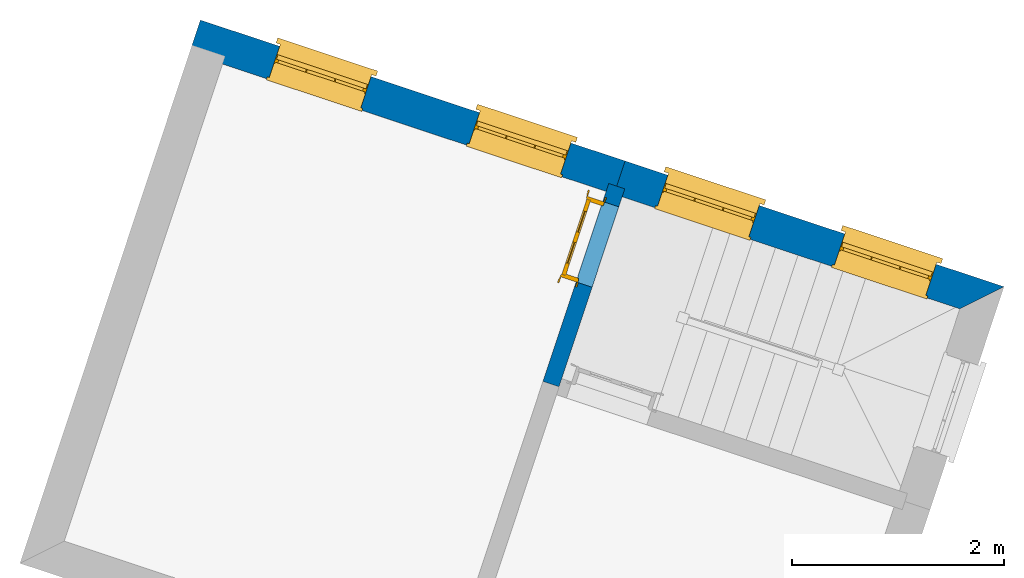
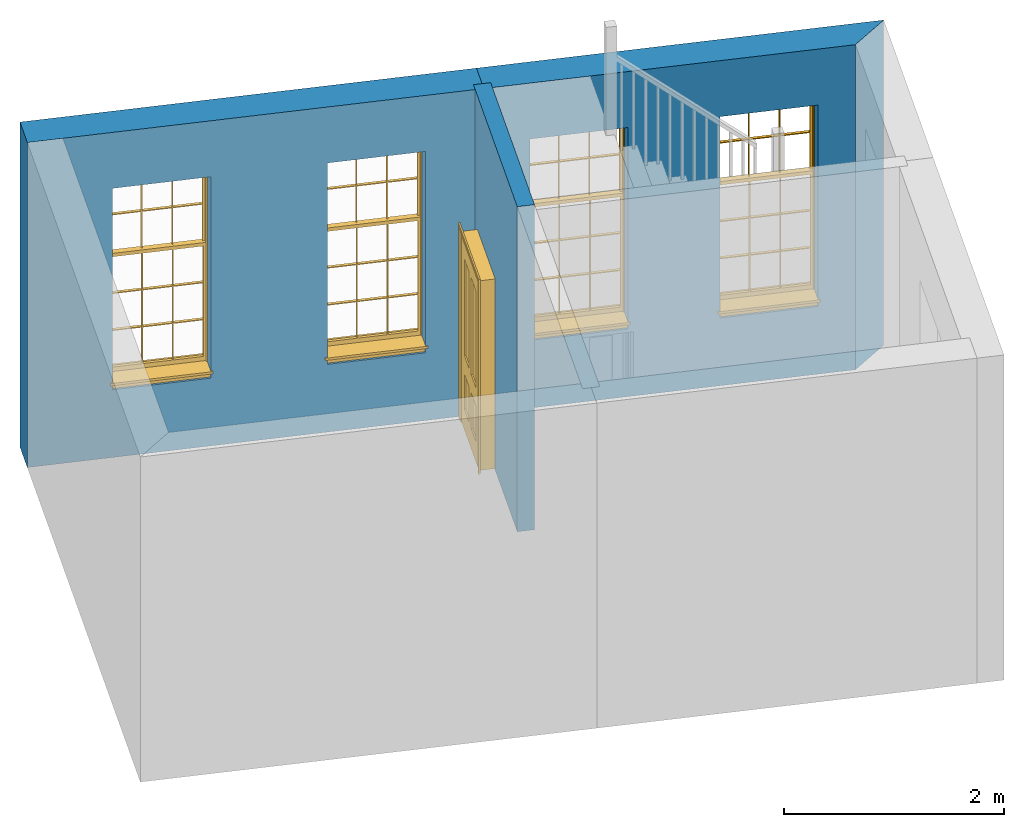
# One storey, part 2 of 2: 4 windows, 3 walls, 1 door, 5 openings.
"""IFC4 building model written with IfcOpenShell, lengths in metres."""

from ifc_helpers import new_model, si_unit, frame, origin, origin_with_axes, place, context, subcontext, project, spatial, polyline, outline, extrude, faceted_brep, source, transform, mapped, material, layer, layer_set, layer_usage, type_object, type_shapes, element, fill, save


model = new_model("IFC4")

# Units and contexts
model_context = context("Model", 3, world=origin_with_axes())
body_context = subcontext(model_context, "Body", "Model", "MODEL_VIEW")
ifc_project = project(units=[si_unit("PLANEANGLEUNIT", "RADIAN"), si_unit("MASSUNIT", "GRAM", prefix="KILO"), si_unit("FORCEUNIT", "NEWTON", prefix="KILO"), si_unit("LENGTHUNIT", "METRE"), si_unit("AREAUNIT", "SQUARE_METRE"), si_unit("VOLUMEUNIT", "CUBIC_METRE")], contexts=[model_context, model_context])

# Sites, building, storey
site_1_placement = place(None, origin_with_axes())
site_1 = spatial("IfcSite", under=ifc_project, at=site_1_placement, Name="Tamar")
site_2_placement = place(site_1_placement, origin_with_axes())
site_2 = spatial("IfcSite", under=site_1, at=site_2_placement, Name="Site plot-17", CompositionType="ELEMENT")
building_placement = place(None, origin_with_axes())
building = spatial("IfcBuilding", under=site_2, at=building_placement, Name="Building plot-17", CompositionType="ELEMENT")
storey_placement = place(None, frame((0.0, 0.0, 30.4), z_axis=(0.0, 0.0, 1.0), x_axis=(1.0, 0.0, 0.0)))
storey = spatial("IfcBuildingStorey", under=building, at=storey_placement, Name="plot-17 1", CompositionType="ELEMENT", Elevation=30.4)

# Wall, openings, windows
ifc_material_1 = material(Name="Masonry")
ifc_layer_1 = layer(ifc_material_1, 0.33, ventilated=False)
ifc_layer_set_1 = layer_set([ifc_layer_1], Name="exterior_0.08_0.25")
ifc_layer_usage_1 = layer_usage(ifc_layer_set_1, "AXIS2", "POSITIVE", -0.25)
wall_type_1 = type_object("IfcWallType", Name="exterior_0.08_0.25", PredefinedType="SOLIDWALL", material=ifc_layer_set_1)
wall_1_placement = place(storey_placement, frame((274.456288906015, 305.249763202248, 0.0), z_axis=(0.0, 0.0, 1.0), x_axis=(-0.949078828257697, 0.315038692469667, 0.0)))
wall_1 = element("IfcWall", 1, at=wall_1_placement, inside=storey, type_object=wall_type_1, material=ifc_layer_usage_1, Name="exterior", context=body_context, shape_type="SweptSolid", body=[
    extrude(outline(polyline([(0.0800000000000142, 0.0800000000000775), (-0.249999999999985, -0.249999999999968), (3.52185421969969, -0.249999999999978), (3.52185421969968, 0.0799999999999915), (0.0800000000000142, 0.0800000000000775)])), origin_with_axes(), (0.0, 0.0, 1.0), 3.6),
])
opening_1_placement = place(wall_1_placement, frame((0.425463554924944, 0.0, 0.75)))
opening_1 = element("IfcOpeningElement", 2, at=opening_1_placement, cuts=wall_1, Name="My Opening", ObjectType="Opening", context=body_context, shape_type="SweptSolid", body=[
    extrude(outline(polyline([(0.0, -0.270000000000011), (0.909999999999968, -0.269999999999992), (0.909999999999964, 1.10000000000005), (-4.21884749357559e-15, 1.10000000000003), (0.0, -0.270000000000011)])), origin_with_axes(), (0.0, 0.0, 1.0), 2.23),
])
opening_2_placement = place(wall_1_placement, frame((2.18639066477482, 0.0, 0.75)))
opening_2 = element("IfcOpeningElement", 3, at=opening_2_placement, cuts=wall_1, Name="My Opening", ObjectType="Opening", context=body_context, shape_type="SweptSolid", body=[
    extrude(outline(polyline([(0.0, -0.270000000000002), (0.909999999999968, -0.269999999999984), (0.909999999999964, 1.10000000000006), (-3.99680288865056e-15, 1.10000000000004), (0.0, -0.270000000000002)])), origin_with_axes(), (0.0, 0.0, 1.0), 2.23),
])
window_type = type_object("IfcWindowType", Name="sash_big_taller", PartitioningType="DOUBLE_PANEL_HORIZONTAL", PredefinedType="NOTDEFINED")
shared_shape_1 = source(origin(), body_context, "Body", "Brep", [
    faceted_brep([(0.033125, 0.145, 1.385209), (0.01, 0.145, 1.385209), (0.033125, 0.145, 1.786042), (0.876875, 0.145, 1.385209), (0.876875, 0.145, 1.786042), (0.9, 0.145, 1.385209), (0.876875, 0.145, 1.796042), (0.876875, 0.145, 2.196875), (0.9, 0.145, 2.22), (0.033125, 0.145, 2.196875), (0.033125, 0.145, 1.796042), (0.01, 0.145, 2.22), (0.876875, 0.115, 1.786042), (0.876875, 0.115, 1.385209), (0.9, 0.115, 1.347084), (0.033125, 0.115, 2.196875), (0.01, 0.115, 2.22), (0.033125, 0.115, 1.796042), (0.01, 0.115, 1.347084), (0.033125, 0.115, 1.385209), (0.033125, 0.115, 1.786042), (0.876875, 0.115, 2.196875), (0.876875, 0.115, 1.796042), (0.9, 0.115, 2.22), (0.033125, 0.145, 1.347084), (0.01, 0.145, 1.347084), (0.033125, 0.145, 0.94625), (0.876875, 0.145, 1.347084), (0.876875, 0.145, 0.94625), (0.9, 0.145, 1.347084), (0.876875, 0.145, 0.52625), (0.876875, 0.145, 0.125417), (0.9, 0.145, 0.077167), (0.033125, 0.145, 0.125417), (0.033125, 0.145, 0.52625), (0.01, 0.145, 0.077167), (-0.0425, 0.0, 0.01), (-0.0425, -0.05, 0.001667), (0.0, 0.0, 0.01), (0.9525, 0.0, 0.01), (0.91, 0.0, 0.01), (0.9525, -0.05, 0.001667), (-0.02, 0.33, 0.077167), (0.0, 0.33, 0.077167), (-0.02, 0.36, 0.077167), (0.0, 0.19, 0.077167), (0.01, 0.19, 0.077167), (0.91, 0.19, 0.077167), (0.91, 0.33, 0.077167), (0.9, 0.19, 0.077167), (0.93, 0.33, 0.077167), (0.93, 0.36, 0.077167), (0.01, 0.175, 1.385209), (0.9, 0.175, 1.385209), (0.876875, 0.175, 0.125417), (0.876875, 0.175, 0.52625), (0.9, 0.175, 0.077167), (0.876875, 0.175, 0.94625), (0.876875, 0.175, 1.347084), (0.033125, 0.175, 0.125417), (0.01, 0.175, 0.077167), (0.033125, 0.175, 0.52625), (0.033125, 0.175, 1.347084), (0.033125, 0.175, 0.94625), (-0.02, 0.33, 0.052167), (-0.02, 0.36, 0.052167), (0.93, 0.36, 0.052167), (0.93, 0.33, 0.052167), (0.91, 0.33, 0.052167), (0.0, 0.33, 0.052167), (0.91, 0.1, 0.026667), (0.0, 0.1, 0.026667), (-0.0425, -0.05, -0.123333), (0.9525, -0.05, -0.123333), (-0.0425, 0.0, -0.123333), (0.9525, 0.0, -0.123333), (0.01, 0.19, 2.22), (0.9, 0.19, 2.22), (0.0, 0.19, 2.23), (0.91, 0.19, 2.23), (0.01, 0.1, 0.077167), (0.9, 0.1, 0.077167), (0.592292, 0.145, 0.125417), (0.592292, 0.175, 0.125417), (0.317708, 0.175, 0.125417), (0.317708, 0.145, 0.125417), (0.592292, 0.145, 0.53625), (0.317708, 0.145, 0.53625), (0.317708, 0.145, 0.52625), (0.592292, 0.145, 0.52625), (0.592292, 0.175, 0.53625), (0.317708, 0.175, 0.53625), (0.592292, 0.115, 1.796042), (0.592292, 0.145, 1.796042), (0.317708, 0.145, 1.796042), (0.317708, 0.115, 1.796042), (0.317708, 0.115, 1.786042), (0.592292, 0.115, 1.786042), (0.317708, 0.145, 1.786042), (0.592292, 0.145, 1.786042), (0.602292, 0.115, 1.786042), (0.592292, 0.115, 1.385209), (0.602292, 0.115, 1.385209), (0.602292, 0.145, 1.385209), (0.592292, 0.145, 1.385209), (0.602292, 0.145, 1.786042), (0.876875, 0.145, 0.53625), (0.876875, 0.175, 0.53625), (0.602292, 0.175, 0.53625), (0.602292, 0.145, 0.53625), (0.317708, 0.175, 0.52625), (0.307708, 0.175, 0.125417), (0.307708, 0.175, 0.52625), (0.602292, 0.175, 0.52625), (0.602292, 0.175, 0.125417), (0.592292, 0.175, 0.52625), (0.307708, 0.175, 0.53625), (0.033125, 0.175, 0.53625), (0.317708, 0.175, 1.347084), (0.317708, 0.175, 0.94625), (0.307708, 0.175, 0.94625), (0.307708, 0.175, 1.347084), (0.602292, 0.175, 1.347084), (0.602292, 0.175, 0.94625), (0.592292, 0.175, 0.94625), (0.592292, 0.175, 1.347084), (0.307708, 0.145, 0.52625), (0.307708, 0.145, 0.125417), (0.307708, 0.145, 0.53625), (0.033125, 0.145, 0.53625), (0.307708, 0.145, 1.347084), (0.307708, 0.145, 0.94625), (0.592292, 0.145, 1.347084), (0.592292, 0.145, 0.94625), (0.317708, 0.145, 0.94625), (0.317708, 0.145, 1.347084), (0.602292, 0.145, 0.94625), (0.602292, 0.145, 1.347084), (0.602292, 0.145, 0.52625), (0.602292, 0.145, 0.125417), (0.307708, 0.115, 1.796042), (0.307708, 0.115, 1.786042), (0.307708, 0.115, 1.385209), (0.317708, 0.115, 1.385209), (0.317708, 0.115, 2.196875), (0.307708, 0.115, 2.196875), (0.602292, 0.115, 2.196875), (0.592292, 0.115, 2.196875), (0.602292, 0.115, 1.796042), (0.602292, 0.145, 1.796042), (0.307708, 0.145, 1.796042), (0.307708, 0.145, 2.196875), (0.317708, 0.145, 2.196875), (0.592292, 0.145, 2.196875), (0.602292, 0.145, 2.196875), (0.307708, 0.145, 1.786042), (0.317708, 0.145, 1.385209), (0.307708, 0.145, 1.385209), (0.876875, 0.175, 0.93625), (0.033125, 0.175, 0.93625), (0.033125, 0.145, 0.93625), (0.876875, 0.145, 0.93625), (0.91, 0.1, 2.23), (0.9, 0.1, 2.22), (0.01, 0.1, 2.22), (0.0, 0.1, 2.23), (0.91, 0.0, 0.0), (0.0, 0.0, 0.0), (0.91, 0.33, 0.0), (0.0, 0.33, 0.0), (0.317708, 0.145, 0.93625), (0.592292, 0.145, 0.93625), (0.317708, 0.175, 0.93625), (0.307708, 0.175, 0.93625), (0.602292, 0.175, 0.93625), (0.592292, 0.175, 0.93625), (0.307708, 0.145, 0.93625), (0.602292, 0.145, 0.93625)], [[[0, 1, 2]], [[3, 4, 5]], [[6, 7, 8]], [[9, 10, 11]], [[12, 13, 14]], [[15, 16, 17]], [[18, 19, 20]], [[21, 22, 23]], [[24, 25, 26]], [[27, 28, 29]], [[30, 31, 32]], [[33, 34, 35]], [[14, 27, 29]], [[25, 24, 18]], [[36, 37, 38]], [[39, 40, 41]], [[42, 43, 44]], [[45, 46, 43]], [[47, 48, 49]], [[50, 51, 48]], [[1, 0, 52]], [[5, 53, 3]], [[54, 55, 56]], [[57, 58, 53]], [[59, 60, 61]], [[62, 63, 52]], [[48, 43, 46, 49]], [[51, 44, 43, 48]], [[64, 42, 44, 65]], [[65, 44, 51, 66]], [[66, 51, 50, 67]], [[65, 66, 68, 69]], [[60, 56, 49, 46]], [[70, 71, 38, 40]], [[37, 41, 40, 38]], [[37, 72, 73, 41]], [[74, 75, 73, 72]], [[8, 11, 76, 77]], [[76, 78, 79, 77]], [[32, 35, 80, 81]], [[81, 80, 71, 70]], [[82, 83, 84, 85]], [[86, 87, 88, 89]], [[86, 90, 91, 87]], [[92, 93, 94, 95]], [[92, 95, 96, 97]], [[96, 98, 99, 97]], [[100, 97, 101, 102]], [[103, 104, 99, 105]], [[97, 99, 104, 101]], [[102, 103, 105, 100]], [[106, 107, 108, 109]], [[110, 84, 111, 112]], [[113, 114, 83, 115]], [[116, 112, 61, 117]], [[90, 115, 110, 91]], [[118, 119, 120, 121]], [[122, 123, 124, 125]], [[113, 108, 107, 55]], [[126, 112, 111, 127]], [[34, 61, 112, 126]], [[89, 115, 83, 82]], [[88, 110, 115, 89]], [[85, 84, 110, 88]], [[128, 116, 117, 129]], [[130, 121, 120, 131]], [[132, 125, 124, 133]], [[134, 119, 118, 135]], [[136, 123, 122, 137]], [[138, 113, 55, 30]], [[139, 114, 113, 138]], [[138, 30, 106, 109]], [[88, 126, 127, 85]], [[138, 89, 82, 139]], [[137, 132, 133, 136]], [[128, 129, 34, 126]], [[135, 130, 131, 134]], [[140, 17, 20, 141]], [[96, 141, 142, 143]], [[144, 145, 140, 95]], [[146, 147, 92, 148]], [[100, 12, 22, 148]], [[149, 6, 4, 105]], [[94, 150, 151, 152]], [[149, 93, 153, 154]], [[99, 98, 94, 93]], [[155, 2, 10, 150]], [[156, 157, 155, 98]], [[141, 155, 157, 142]], [[20, 2, 155, 141]], [[143, 156, 98, 96]], [[140, 150, 10, 17]], [[145, 151, 150, 140]], [[147, 153, 93, 92]], [[95, 94, 152, 144]], [[22, 6, 149, 148]], [[148, 149, 154, 146]], [[100, 105, 4, 12]], [[109, 86, 89, 138]], [[108, 113, 115, 90]], [[91, 110, 112, 116]], [[87, 128, 126, 88]], [[97, 100, 148, 92]], [[141, 96, 95, 140]], [[98, 155, 150, 94]], [[105, 99, 93, 149]], [[143, 101, 104, 156]], [[135, 118, 125, 132]], [[144, 152, 153, 147]], [[127, 111, 59, 33]], [[15, 9, 151, 145]], [[146, 154, 7, 21]], [[31, 54, 114, 139]], [[36, 74, 72, 37]], [[39, 41, 73, 75]], [[18, 14, 101, 143]], [[23, 16, 144, 147]], [[83, 56, 60, 84]], [[52, 53, 125, 118]], [[53, 52, 156, 104]], [[11, 8, 153, 152]], [[14, 18, 135, 132]], [[2, 1, 11, 10]], [[8, 5, 4, 6]], [[57, 53, 56, 158]], [[60, 52, 63, 159]], [[26, 25, 35, 160]], [[32, 29, 28, 161]], [[14, 23, 22, 12]], [[18, 20, 17, 16]], [[19, 0, 2, 20]], [[17, 10, 9, 15]], [[12, 4, 3, 13]], [[21, 7, 6, 22]], [[27, 58, 57, 28]], [[30, 55, 54, 31]], [[33, 59, 61, 34]], [[26, 63, 62, 24]], [[5, 8, 77, 53]], [[76, 11, 1, 52]], [[46, 45, 78, 76]], [[49, 77, 79, 47]], [[70, 162, 163, 81]], [[71, 80, 164, 165]], [[19, 142, 157, 0]], [[102, 13, 3, 103]], [[121, 130, 24, 62]], [[29, 32, 81, 14]], [[80, 35, 25, 18]], [[60, 46, 76, 52]], [[77, 49, 56, 53]], [[23, 14, 81, 163]], [[16, 164, 80, 18]], [[35, 85, 127]], [[127, 33, 35]], [[139, 82, 32]], [[32, 31, 139]], [[32, 82, 85, 35]], [[102, 101, 14]], [[14, 13, 102]], [[18, 143, 142]], [[142, 19, 18]], [[146, 21, 23]], [[23, 147, 146]], [[16, 15, 145]], [[145, 144, 16]], [[11, 152, 151]], [[151, 9, 11]], [[154, 153, 8]], [[8, 7, 154]], [[23, 163, 164, 16]], [[162, 165, 164, 163]], [[52, 118, 121]], [[121, 62, 52]], [[125, 53, 122]], [[58, 122, 53]], [[27, 137, 122, 58]], [[56, 83, 114]], [[114, 54, 56]], [[111, 84, 60]], [[60, 59, 111]], [[137, 27, 14]], [[14, 132, 137]], [[130, 135, 18]], [[18, 24, 130]], [[157, 156, 52]], [[52, 0, 157]], [[103, 3, 53]], [[53, 104, 103]], [[79, 78, 165, 162]], [[78, 45, 71, 165]], [[162, 70, 47, 79]], [[166, 75, 74, 167]], [[68, 66, 67]], [[48, 68, 67, 50]], [[69, 64, 65]], [[42, 64, 69, 43]], [[69, 68, 168, 169]], [[70, 68, 48, 47]], [[166, 168, 68, 70]], [[43, 69, 71, 45]], [[69, 169, 167, 71]], [[168, 166, 167, 169]], [[38, 167, 74, 36]], [[71, 167, 38]], [[39, 75, 166, 40]], [[40, 166, 70]], [[133, 134, 170, 171]], [[133, 124, 119, 134]], [[28, 57, 123, 136]], [[172, 91, 116, 173]], [[174, 108, 90, 175]], [[120, 173, 159, 63]], [[124, 175, 172, 119]], [[174, 123, 57, 158]], [[176, 173, 116, 128]], [[160, 159, 173, 176]], [[171, 175, 90, 86]], [[170, 172, 175, 171]], [[87, 91, 172, 170]], [[131, 120, 63, 26]], [[177, 174, 158, 161]], [[109, 108, 174, 177]], [[177, 161, 28, 136]], [[170, 176, 128, 87]], [[177, 171, 86, 109]], [[131, 26, 160, 176]], [[136, 133, 171, 177]], [[123, 174, 175, 124]], [[119, 172, 173, 120]], [[134, 131, 176, 170]], [[129, 117, 159, 160]], [[161, 158, 107, 106]], [[35, 34, 129]], [[35, 129, 160]], [[32, 106, 30]], [[32, 161, 106]], [[56, 55, 107]], [[56, 107, 158]], [[60, 117, 61]], [[60, 159, 117]]]),
])
type_shapes(window_type, [shared_shape_1])
window_1_placement = place(storey_placement, frame((274.137550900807, 305.640051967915, 0.75), z_axis=(0.0, 0.0, 1.0), x_axis=(-0.86366173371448, 0.286685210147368, 0.0)))
window_1 = element("IfcWindow", 4, at=window_1_placement, inside=storey, type_object=window_type, Name="circulation outside window", OverallHeight=2.23, OverallWidth=0.91, context=body_context, shape_type="MappedRepresentation", body=[
    mapped(shared_shape_1, transform((0.0, 0.0, 0.0), scale=1.0)),
])
fill(opening_1, window_1)
window_2_placement = place(storey_placement, frame((272.466292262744, 306.194812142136, 0.75), z_axis=(0.0, 0.0, 1.0), x_axis=(-0.86366173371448, 0.286685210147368, 0.0)))
window_2 = element("IfcWindow", 5, at=window_2_placement, inside=storey, type_object=window_type, Name="circulation outside window", OverallHeight=2.23, OverallWidth=0.91, context=body_context, shape_type="MappedRepresentation", body=[
    mapped(shared_shape_1, transform((0.0, 0.0, 0.0), scale=1.0)),
])
fill(opening_2, window_2)

wall_2_placement = place(storey_placement, frame((271.113771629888, 306.359283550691, 0.0), z_axis=(0.0, 0.0, 1.0), x_axis=(-0.949078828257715, 0.315038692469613, 0.0)))
wall_2 = element("IfcWall", 6, at=wall_2_placement, inside=storey, type_object=wall_type_1, material=ifc_layer_usage_1, Name="exterior", context=body_context, shape_type="SweptSolid", body=[
    extrude(outline(polyline([(-9.26768411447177e-15, 0.0799999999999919), (-2.27997750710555e-14, -0.249999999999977), (4.22814578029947, -0.250000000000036), (4.22814578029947, 0.0799999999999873), (-9.26768411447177e-15, 0.0799999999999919)])), origin_with_axes(), (0.0, 0.0, 1.0), 3.6),
])
opening_3_placement = place(wall_2_placement, frame((0.539536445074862, 0.0, 0.75)))
opening_3 = element("IfcOpeningElement", 7, at=opening_3_placement, cuts=wall_2, Name="My Opening", ObjectType="Opening", context=body_context, shape_type="SweptSolid", body=[
    extrude(outline(polyline([(0.0, -0.269999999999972), (0.910000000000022, -0.269999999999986), (0.909999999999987, 1.10000000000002), (-3.45279360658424e-14, 1.10000000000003), (0.0, -0.269999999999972)])), origin_with_axes(), (0.0, 0.0, 1.0), 2.23),
])
opening_4_placement = place(wall_2_placement, frame((2.52860933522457, 0.0, 0.75)))
opening_4 = element("IfcOpeningElement", 8, at=opening_4_placement, cuts=wall_2, Name="My Opening", ObjectType="Opening", context=body_context, shape_type="SweptSolid", body=[
    extrude(outline(polyline([(0.0, -0.270000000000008), (0.910000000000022, -0.270000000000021), (0.909999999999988, 1.09999999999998), (-3.41948691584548e-14, 1.1), (0.0, -0.270000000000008)])), origin_with_axes(), (0.0, 0.0, 1.0), 2.23),
])
window_3_placement = place(storey_placement, frame((270.686769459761, 306.785509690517, 0.75), z_axis=(0.0, 0.0, 1.0), x_axis=(-0.863661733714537, 0.286685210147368, 0.0)))
window_3 = element("IfcWindow", 9, at=window_3_placement, inside=storey, type_object=window_type, Name="bedroom outside window", OverallHeight=2.23, OverallWidth=0.91, context=body_context, shape_type="MappedRepresentation", body=[
    mapped(shared_shape_1, transform((0.0, 0.0, 0.0), scale=1.0)),
])
fill(opening_3, window_3)
window_4_placement = place(storey_placement, frame((268.798982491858, 307.412144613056, 0.75), z_axis=(0.0, 0.0, 1.0), x_axis=(-0.863661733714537, 0.286685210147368, 0.0)))
window_4 = element("IfcWindow", 10, at=window_4_placement, inside=storey, type_object=window_type, Name="bedroom outside window", OverallHeight=2.23, OverallWidth=0.91, context=body_context, shape_type="MappedRepresentation", body=[
    mapped(shared_shape_1, transform((0.0, 0.0, 0.0), scale=1.0)),
])
fill(opening_4, window_4)

# Wall, opening, door
ifc_material_2 = material(Name="Masonry")
ifc_layer_2 = layer(ifc_material_2, 0.16, ventilated=False)
ifc_layer_set_2 = layer_set([ifc_layer_2], Name="interior_0.08_0.08")
ifc_layer_usage_2 = layer_usage(ifc_layer_set_2, "AXIS2", "POSITIVE", -0.08)
wall_type_2 = type_object("IfcWallType", Name="interior_0.08_0.08", PredefinedType="SOLIDWALL", material=ifc_layer_set_2)
wall_3_placement = place(storey_placement, frame((270.492843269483, 304.488688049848, 0.0), z_axis=(0.0, 0.0, 1.0), x_axis=(0.315038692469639, 0.949078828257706, 0.0)))
wall_3 = element("IfcWall", 11, at=wall_3_placement, inside=storey, type_object=wall_type_2, material=ifc_layer_usage_2, Name="interior", context=body_context, shape_type="SweptSolid", body=[
    extrude(outline(polyline([(-1.14526030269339e-14, 0.0799999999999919), (1.1462400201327e-14, -0.0799999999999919), (1.9709590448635, -0.0799999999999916), (1.97095904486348, 0.079999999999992), (-1.14526030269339e-14, 0.0799999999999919)])), origin_with_axes(), (0.0, 0.0, 1.0), 3.6),
])
opening_5_placement = place(wall_3_placement, frame((0.990959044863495, 0.0, 0.0199999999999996)))
opening_5 = element("IfcOpeningElement", 12, at=opening_5_placement, cuts=wall_3, Name="My Opening", ObjectType="Opening", context=body_context, shape_type="SweptSolid", body=[
    extrude(outline(polyline([(0.0, -0.100000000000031), (0.799999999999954, -0.100000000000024), (0.799999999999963, 1.10000000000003), (8.32667268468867e-15, 1.10000000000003), (0.0, -0.100000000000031)])), origin_with_axes(), (0.0, 0.0, 1.0), 2.1),
])
door_type = type_object("IfcDoorType", Name="door_inside", OperationType="SINGLE_SWING_LEFT", PredefinedType="NOTDEFINED")
shared_shape_2 = source(origin(), body_context, "Body", "Brep", [
    faceted_brep([(0.773, 0.33, 1.895), (0.66, 0.33, 1.895), (0.66, 0.33, 2.073), (0.773, 0.33, 2.073), (0.773, 0.33, 0.82), (0.66, 0.33, 0.82), (0.45, 0.33, 1.895), (0.45, 0.33, 2.073), (0.773, 0.33, 0.62), (0.66, 0.33, 0.62), (0.66, 0.315, 0.82), (0.66, 0.315, 1.895), (0.45, 0.315, 1.895), (0.35, 0.33, 1.895), (0.35, 0.33, 2.073), (0.773, 0.33, 0.225), (0.66, 0.33, 0.225), (0.45, 0.33, 0.62), (0.45, 0.33, 0.82), (0.45, 0.315, 0.82), (0.35, 0.33, 0.82), (0.14, 0.33, 2.073), (0.14, 0.33, 1.895), (0.773, 0.33, 0.0), (0.66, 0.33, 0.0), (0.66, 0.315, 0.225), (0.66, 0.315, 0.62), (0.45, 0.315, 0.62), (0.35, 0.33, 0.62), (0.35, 0.315, 0.82), (0.35, 0.315, 1.895), (0.14, 0.315, 1.895), (0.027, 0.33, 2.073), (0.027, 0.33, 1.895), (0.773, 0.292, 0.0), (0.66, 0.292, 0.0), (0.45, 0.33, 0.0), (0.45, 0.33, 0.225), (0.45, 0.315, 0.225), (0.35, 0.33, 0.225), (0.14, 0.33, 0.82), (0.14, 0.33, 0.62), (0.14, 0.315, 0.82), (0.027, 0.33, 0.82), (0.773, 0.292, 0.225), (0.66, 0.292, 0.225), (0.45, 0.292, 0.0), (0.35, 0.33, 0.0), (0.35, 0.315, 0.225), (0.35, 0.315, 0.62), (0.14, 0.315, 0.62), (0.027, 0.33, 0.62), (0.773, 0.292, 0.62), (0.66, 0.292, 0.62), (0.45, 0.292, 0.225), (0.35, 0.292, 0.0), (0.14, 0.33, 0.225), (0.14, 0.33, 0.0), (0.14, 0.315, 0.225), (0.027, 0.33, 0.225), (0.773, 0.292, 0.82), (0.66, 0.292, 0.82), (0.66, 0.307, 0.62), (0.66, 0.307, 0.225), (0.45, 0.307, 0.225), (0.35, 0.292, 0.225), (0.14, 0.292, 0.0), (0.027, 0.33, 0.0), (0.773, 0.292, 1.895), (0.66, 0.292, 1.895), (0.45, 0.292, 0.62), (0.45, 0.292, 0.82), (0.45, 0.307, 0.62), (0.35, 0.292, 0.62), (0.14, 0.292, 0.225), (0.027, 0.292, 0.0), (0.773, 0.292, 2.073), (0.66, 0.292, 2.073), (0.66, 0.307, 1.895), (0.66, 0.307, 0.82), (0.45, 0.307, 0.82), (0.35, 0.292, 0.82), (0.35, 0.307, 0.62), (0.35, 0.307, 0.225), (0.14, 0.307, 0.225), (0.027, 0.292, 0.225), (0.45, 0.292, 1.895), (0.45, 0.292, 2.073), (0.45, 0.307, 1.895), (0.35, 0.292, 1.895), (0.14, 0.292, 0.82), (0.14, 0.292, 0.62), (0.14, 0.307, 0.62), (0.027, 0.292, 0.62), (0.35, 0.292, 2.073), (0.35, 0.307, 1.895), (0.35, 0.307, 0.82), (0.14, 0.307, 0.82), (0.027, 0.292, 0.82), (0.14, 0.292, 2.073), (0.14, 0.292, 1.895), (0.14, 0.307, 1.895), (0.027, 0.292, 1.895), (0.027, 0.292, 2.073), (0.02, 0.335, 0.0), (0.005, 0.34, 0.0), (0.005, 0.34, 2.095), (0.02, 0.335, 2.08), (0.02, 0.33, 0.0), (0.0, 0.335, 0.0), (0.0, 0.335, 2.1), (0.795, 0.34, 2.095), (0.78, 0.335, 2.08), (0.02, 0.33, 2.08), (0.0, 0.33, 0.0), (-0.032, 0.345, 0.0), (-0.032, 0.345, 2.132), (0.8, 0.335, 2.1), (0.795, 0.34, 0.0), (0.78, 0.335, 0.0), (0.78, 0.33, 2.08), (0.04, 0.29, 0.0), (0.025, 0.29, 0.0), (0.025, 0.29, 2.075), (0.04, 0.29, 2.06), (-0.04, 0.34, 0.0), (-0.04, 0.34, 2.14), (0.832, 0.345, 2.132), (0.8, 0.335, 0.0), (0.78, 0.33, 0.0), (0.8, 0.33, 0.0), (0.86, 0.33, 0.0), (0.86, 0.33, 2.16), (0.8, 0.33, 2.1), (-0.06, 0.33, 2.16), (0.0, 0.33, 2.1), (-0.06, 0.33, 0.0), (-0.04, 0.345, 0.0), (-0.04, 0.345, 2.14), (0.84, 0.34, 2.14), (0.832, 0.345, 0.0), (0.84, 0.34, 0.0), (0.86, 0.345, 0.0), (0.86, 0.345, 2.16), (-0.06, 0.345, 2.16), (-0.06, 0.345, 0.0), (0.84, 0.345, 0.0), (0.84, 0.345, 2.14), (-0.025, 0.155, 0.0), (-0.025, 0.16, 0.0), (-0.025, 0.16, 2.125), (-0.025, 0.155, 2.125), (-0.017, 0.155, 0.0), (-0.017, 0.155, 2.117), (0.825, 0.16, 2.125), (0.825, 0.155, 2.125), (0.825, 0.155, 0.0), (0.845, 0.155, 0.0), (-0.045, 0.155, 2.145), (-0.045, 0.155, 0.0), (0.845, 0.155, 2.145), (0.015, 0.165, 0.0), (0.015, 0.165, 2.085), (0.817, 0.155, 2.117), (0.825, 0.16, 0.0), (0.845, 0.17, 0.0), (0.845, 0.17, 2.145), (-0.045, 0.17, 2.145), (-0.045, 0.17, 0.0), (0.02, 0.16, 0.0), (0.02, 0.16, 2.08), (0.785, 0.165, 2.085), (0.817, 0.155, 0.0), (0.8, 0.17, 0.0), (0.8, 0.17, 2.1), (0.0, 0.17, 2.1), (0.0, 0.17, 0.0), (0.035, 0.165, 0.0), (0.035, 0.165, 2.065), (0.78, 0.16, 2.08), (0.785, 0.165, 0.0), (0.775, 0.29, 2.075), (0.76, 0.29, 2.06), (0.035, 0.17, 2.065), (0.035, 0.17, 0.0), (0.765, 0.165, 2.065), (0.78, 0.16, 0.0), (0.765, 0.17, 0.0), (0.765, 0.17, 2.065), (0.765, 0.165, 0.0), (0.04, 0.17, 2.06), (0.04, 0.17, 0.0), (0.76, 0.17, 2.06), (0.76, 0.17, 0.0), (0.76, 0.29, 0.0), (0.775, 0.29, 0.0), (0.025, 0.33, 0.0), (0.025, 0.33, 2.075), (0.775, 0.33, 0.0), (0.775, 0.33, 2.075)], [[[0, 1, 2, 3]], [[1, 0, 4, 5]], [[1, 6, 7, 2]], [[8, 9, 5, 4]], [[1, 5, 10, 11]], [[6, 1, 11, 12]], [[6, 13, 14, 7]], [[15, 16, 9, 8]], [[9, 17, 18, 5]], [[5, 18, 19, 10]], [[10, 19, 12, 11]], [[18, 6, 12, 19]], [[18, 20, 13, 6]], [[21, 14, 13, 22]], [[23, 24, 16, 15]], [[9, 16, 25, 26]], [[17, 9, 26, 27]], [[17, 28, 20, 18]], [[13, 20, 29, 30]], [[22, 13, 30, 31]], [[32, 21, 22, 33]], [[34, 35, 24, 23]], [[24, 36, 37, 16]], [[16, 37, 38, 25]], [[25, 38, 27, 26]], [[37, 17, 27, 38]], [[37, 39, 28, 17]], [[40, 20, 28, 41]], [[20, 40, 42, 29]], [[31, 30, 29, 42]], [[40, 22, 31, 42]], [[33, 22, 40, 43]], [[35, 34, 44, 45]], [[35, 46, 36, 24]], [[36, 47, 39, 37]], [[28, 39, 48, 49]], [[41, 28, 49, 50]], [[43, 40, 41, 51]], [[45, 44, 52, 53]], [[46, 35, 45, 54]], [[46, 55, 47, 36]], [[56, 39, 47, 57]], [[39, 56, 58, 48]], [[50, 49, 48, 58]], [[56, 41, 50, 58]], [[51, 41, 56, 59]], [[53, 52, 60, 61]], [[45, 53, 62, 63]], [[54, 45, 63, 64]], [[55, 46, 54, 65]], [[55, 66, 57, 47]], [[59, 56, 57, 67]], [[61, 60, 68, 69]], [[70, 53, 61, 71]], [[53, 70, 72, 62]], [[72, 64, 63, 62]], [[70, 54, 64, 72]], [[65, 54, 70, 73]], [[65, 74, 66, 55]], [[67, 57, 66, 75]], [[69, 68, 76, 77]], [[61, 69, 78, 79]], [[71, 61, 79, 80]], [[73, 70, 71, 81]], [[65, 73, 82, 83]], [[74, 65, 83, 84]], [[74, 85, 75, 66]], [[86, 69, 77, 87]], [[69, 86, 88, 78]], [[88, 80, 79, 78]], [[86, 71, 80, 88]], [[81, 71, 86, 89]], [[73, 81, 90, 91]], [[73, 91, 92, 82]], [[83, 82, 92, 84]], [[91, 74, 84, 92]], [[91, 93, 85, 74]], [[89, 86, 87, 94]], [[81, 89, 95, 96]], [[90, 81, 96, 97]], [[90, 98, 93, 91]], [[94, 99, 100, 89]], [[89, 100, 101, 95]], [[101, 97, 96, 95]], [[100, 90, 97, 101]], [[100, 102, 98, 90]], [[99, 103, 102, 100]], [[32, 103, 99, 21]], [[102, 103, 32, 33]], [[98, 102, 33, 43]], [[21, 99, 94, 14]], [[94, 87, 7, 14]], [[7, 87, 77, 2]], [[76, 3, 2, 77]], [[43, 51, 93, 98]], [[51, 59, 85, 93]], [[67, 75, 85, 59]], [[34, 23, 15, 44]], [[44, 15, 8, 52]], [[52, 8, 4, 60]], [[0, 68, 60, 4]], [[0, 3, 76, 68]], [[104, 105, 106, 107]], [[104, 108, 109, 105]], [[105, 109, 110, 106]], [[107, 106, 111, 112]], [[107, 113, 108, 104]], [[114, 109, 108]], [[109, 115, 116, 110]], [[106, 110, 117, 111]], [[112, 111, 118, 119]], [[113, 107, 112, 120]], [[121, 122, 123, 124]], [[115, 109, 114, 125]], [[115, 125, 126, 116]], [[110, 116, 127, 117]], [[111, 117, 128, 118]], [[118, 128, 129, 119]], [[120, 112, 119, 129]], [[130, 129, 128]], [[130, 131, 132, 133]], [[133, 132, 134, 135]], [[135, 134, 136, 114]], [[136, 125, 114]], [[125, 137, 138, 126]], [[116, 126, 139, 127]], [[117, 127, 140, 128]], [[141, 130, 128, 140]], [[131, 130, 141]], [[131, 142, 143, 132]], [[132, 143, 144, 134]], [[134, 144, 145, 136]], [[137, 125, 136, 145]], [[143, 142, 146]], [[143, 146, 147]], [[137, 145, 144]], [[143, 147, 138]], [[138, 137, 144]], [[143, 138, 144]], [[126, 138, 147, 139]], [[127, 139, 141, 140]], [[142, 131, 141, 146]], [[139, 147, 146, 141]], [[148, 149, 150, 151]], [[149, 152, 153, 150]], [[151, 150, 154, 155]], [[155, 156, 157]], [[158, 159, 148]], [[158, 148, 151]], [[155, 157, 160]], [[158, 151, 155]], [[155, 160, 158]], [[152, 161, 162, 153]], [[150, 153, 163, 154]], [[155, 154, 164, 156]], [[156, 164, 165, 157]], [[157, 165, 166, 160]], [[160, 166, 167, 158]], [[158, 167, 168, 159]], [[161, 169, 170, 162]], [[153, 162, 171, 163]], [[154, 163, 172, 164]], [[165, 164, 173]], [[165, 173, 174, 166]], [[166, 174, 175, 167]], [[167, 175, 176, 168]], [[169, 177, 178, 170]], [[162, 170, 179, 171]], [[163, 171, 180, 172]], [[172, 180, 173, 164]], [[124, 123, 181, 182]], [[183, 178, 177, 184]], [[170, 178, 185, 179]], [[171, 179, 186, 180]], [[187, 173, 180]], [[185, 188, 187, 189]], [[188, 185, 178, 183]], [[179, 185, 189, 186]], [[189, 187, 180, 186]], [[190, 183, 184, 191]], [[192, 188, 183, 190]], [[191, 184, 122, 121]], [[124, 190, 191, 121]], [[193, 187, 188, 192]], [[182, 192, 190, 124]], [[184, 176, 122]], [[194, 195, 187, 193]], [[192, 182, 194, 193]], [[161, 176, 184]], [[114, 108, 122, 176]], [[173, 187, 195]], [[152, 149, 176, 161]], [[169, 161, 184, 177]], [[196, 122, 108]], [[176, 175, 135, 114]], [[173, 195, 129, 130]], [[176, 149, 168]], [[123, 122, 196, 197]], [[196, 108, 113, 197]], [[175, 174, 133, 135]], [[198, 129, 195]], [[133, 174, 173, 130]], [[159, 168, 149, 148]], [[181, 123, 197, 199]], [[197, 113, 120, 199]], [[199, 120, 129, 198]], [[195, 181, 199, 198]], [[195, 194, 182, 181]]]),
])
type_shapes(door_type, [shared_shape_2])
door_placement = place(storey_placement, frame((270.899941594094, 305.397682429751, 0.0199999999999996), z_axis=(0.0, 0.0, 1.0), x_axis=(0.252030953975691, 0.759263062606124, 0.0)))
door = element("IfcDoor", 13, at=door_placement, inside=storey, type_object=door_type, Name="bedroom inside door", OverallHeight=2.1, OverallWidth=0.8, context=body_context, shape_type="MappedRepresentation", body=[
    mapped(shared_shape_2, transform((0.0, 0.0, 0.0), scale=1.0)),
])
fill(opening_5, door)

save(model, "model.ifc")
